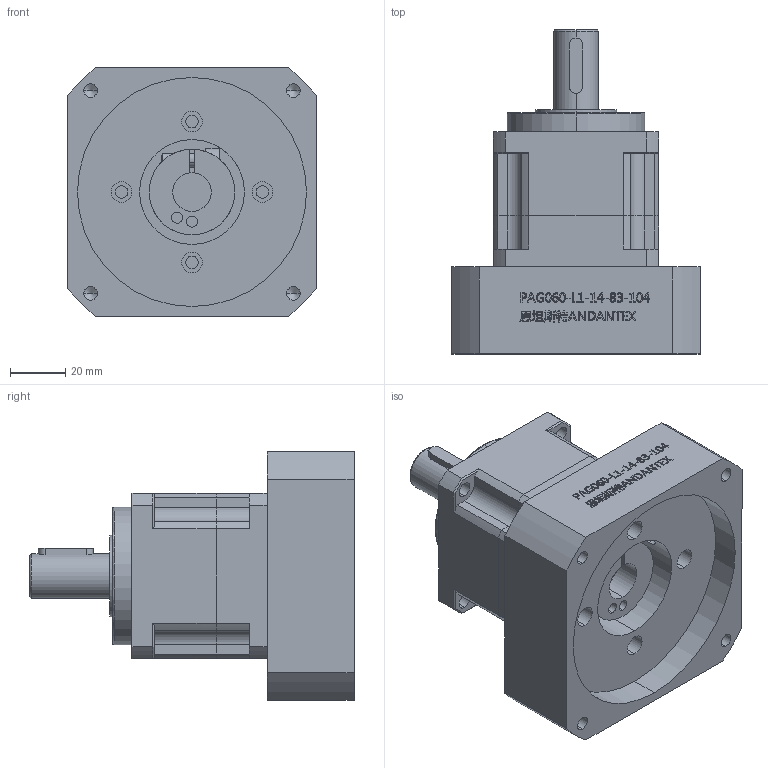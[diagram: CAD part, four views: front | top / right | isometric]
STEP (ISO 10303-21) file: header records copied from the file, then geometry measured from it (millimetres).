
FILE_DESCRIPTION (( 'STEP AP203' ), '1' );
FILE_NAME ('PAG060-L1-14-83-104準梓.STEP', '2024-04-17T03:35:56', ( 'Windows User' ), ( 'P R C' ), 'SwSTEP 2.0', 'SolidWorks 2016', '' );
FILE_SCHEMA (( 'CONFIG_CONTROL_DESIGN' ));
Length unit declared in the file: millimetre
Products named in the file (6): PAG60俋倛芞奻裔啣_72T; PAG60外形图下盖板-分体-14; 邧埴瑩 5x5x20; 囀鞠褒蹟佪-M5℅16; PAG60-LJ 83-M6-104-LR42; PAG060-L1-14-83-104準梓
Assembly tree (5 placements, depth 2):
  PAG060-L1-14-83-104準梓
    PAG60俋倛芞奻裔啣_72T
    PAG60外形图下盖板-分体-14
    邧埴瑩 5x5x20
    囀鞠褒蹟佪-M5℅16
    PAG60-LJ 83-M6-104-LR42
Bounding box: 90 x 117.5 x 90 mm (x, y, z)
Volume: 348857.1 mm3; surface area: 73493 mm2
Topology: 5 solids, 5 shells, 858 faces, 2250 edges, 1481 vertices
Faces by surface type: plane 525, bspline 162, cylinder 144, cone 27
Entity records: 33619 total; most frequent: CARTESIAN_POINT 12703, ORIENTED_EDGE 4464, DIRECTION 3615, EDGE_CURVE 2232, VECTOR 1569, LINE 1569, VERTEX_POINT 1481, AXIS2_PLACEMENT_3D 1023
